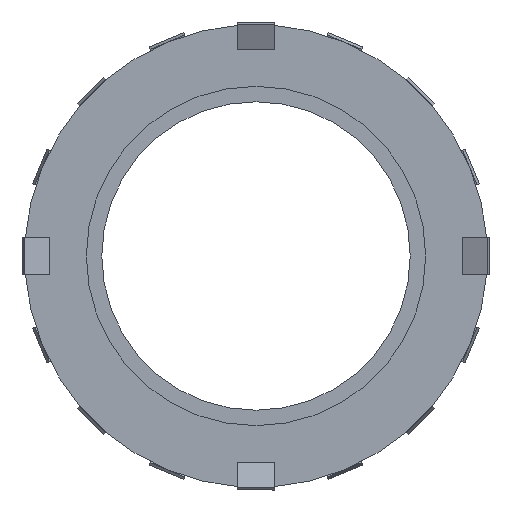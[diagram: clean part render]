
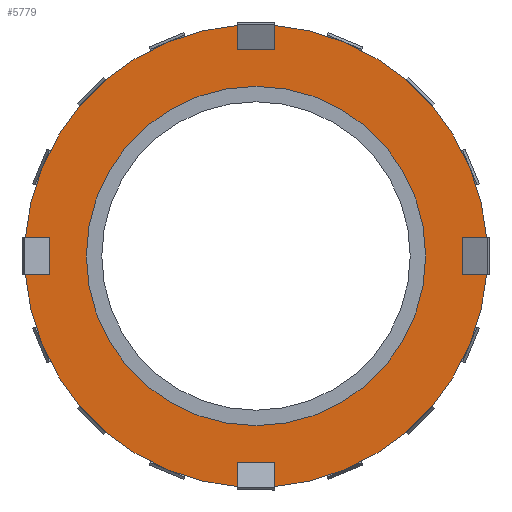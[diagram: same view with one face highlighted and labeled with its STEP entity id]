
A CAD part, left-side view. The second image highlights one B-rep face of the part: STEP entity #5779.
In plain terms, the highlighted planar face has unit normal (-1, 0, 0).
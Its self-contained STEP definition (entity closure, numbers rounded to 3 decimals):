
#1266 = EDGE_CURVE ( 'NONE', #1337, #1342, #3048, .T. ) ;
#1337 = VERTEX_POINT ( 'NONE', #3174 ) ;
#1342 = VERTEX_POINT ( 'NONE', #3173 ) ;
#1391 = VERTEX_POINT ( 'NONE', #3278 ) ;
#1400 = EDGE_CURVE ( 'NONE', #1391, #1423, #3260, .T. ) ;
#1423 = VERTEX_POINT ( 'NONE', #3315 ) ;
#3043 = DIRECTION ( 'NONE',  ( 0., 0., 1. ) ) ;
#3044 = DIRECTION ( 'NONE',  ( -1., 0., 0. ) ) ;
#3045 = CARTESIAN_POINT ( 'NONE',  ( 4., 0., 0. ) ) ;
#3047 = AXIS2_PLACEMENT_3D ( 'NONE', #3045, #3044, #3043 ) ;
#3048 = CIRCLE ( 'NONE', #3047, 27.5 ) ;
#3173 = CARTESIAN_POINT ( 'NONE',  ( 4., 0., 27.5 ) ) ;
#3174 = CARTESIAN_POINT ( 'NONE',  ( 4., 0., -27.5 ) ) ;
#3256 = DIRECTION ( 'NONE',  ( 0., 0., 1. ) ) ;
#3257 = DIRECTION ( 'NONE',  ( -1., 0., 0. ) ) ;
#3258 = CARTESIAN_POINT ( 'NONE',  ( 4., 0., 0. ) ) ;
#3259 = AXIS2_PLACEMENT_3D ( 'NONE', #3258, #3257, #3256 ) ;
#3260 = CIRCLE ( 'NONE', #3259, 37.5 ) ;
#3278 = CARTESIAN_POINT ( 'NONE',  ( 4., -3., -37.38 ) ) ;
#3315 = CARTESIAN_POINT ( 'NONE',  ( 4., -37.38, -3. ) ) ;
#3534 = CARTESIAN_POINT ( 'NONE',  ( 4., 0., 0. ) ) ;
#4055 = DIRECTION ( 'NONE',  ( -1., 0., 0. ) ) ;
#4310 = CARTESIAN_POINT ( 'NONE',  ( 4., -3., 37.38 ) ) ;
#4326 = AXIS2_PLACEMENT_3D ( 'NONE', #3534, #4055, #5180 ) ;
#4328 = CIRCLE ( 'NONE', #4326, 37.5 ) ;
#4391 = CARTESIAN_POINT ( 'NONE',  ( 4., -37.38, 3. ) ) ;
#4476 = DIRECTION ( 'NONE',  ( 0., 0., -1. ) ) ;
#4477 = VECTOR ( 'NONE', #4476, 1000. ) ;
#4478 = CARTESIAN_POINT ( 'NONE',  ( 4., 3., -37.38 ) ) ;
#4479 = LINE ( 'NONE', #4478, #4477 ) ;
#4935 = ORIENTED_EDGE ( 'NONE', *, *, #6254, .T. ) ;
#4962 = VERTEX_POINT ( 'NONE', #4310 ) ;
#4991 = EDGE_CURVE ( 'NONE', #4993, #4962, #4328, .T. ) ;
#4993 = VERTEX_POINT ( 'NONE', #4391 ) ;
#5047 = EDGE_CURVE ( 'NONE', #6593, #6199, #4479, .T. ) ;
#5048 = ORIENTED_EDGE ( 'NONE', *, *, #5047, .F. ) ;
#5180 = DIRECTION ( 'NONE',  ( 0., 0., 1. ) ) ;
#5536 = VERTEX_POINT ( 'NONE', #6360 ) ;
#5541 = EDGE_CURVE ( 'NONE', #5542, #5536, #6412, .T. ) ;
#5542 = VERTEX_POINT ( 'NONE', #6407 ) ;
#5567 = EDGE_CURVE ( 'NONE', #1342, #1337, #6478, .T. ) ;
#5602 = VERTEX_POINT ( 'NONE', #6480 ) ;
#5607 = EDGE_CURVE ( 'NONE', #5602, #6594, #6530, .T. ) ;
#5665 = ORIENTED_EDGE ( 'NONE', *, *, #5672, .F. ) ;
#5672 = EDGE_CURVE ( 'NONE', #5829, #5602, #6644, .T. ) ;
#5771 = EDGE_LOOP ( 'NONE', ( #5775, #5772 ) ) ;
#5772 = ORIENTED_EDGE ( 'NONE', *, *, #1266, .F. ) ;
#5773 = EDGE_LOOP ( 'NONE', ( #5776, #6596, #6580, #6579, #6323, #6317, #6318, #7060, #7059, #6976, #6604, #6605, #6595, #5665, #4935, #5048 ) ) ;
#5775 = ORIENTED_EDGE ( 'NONE', *, *, #5567, .F. ) ;
#5776 = ORIENTED_EDGE ( 'NONE', *, *, #5778, .F. ) ;
#5778 = EDGE_CURVE ( 'NONE', #6592, #6593, #6826, .T. ) ;
#5779 = ADVANCED_FACE ( 'NONE', ( #6822, #6821 ), #6820, .F. ) ;
#5829 = VERTEX_POINT ( 'NONE', #6859 ) ;
#6199 = VERTEX_POINT ( 'NONE', #6857 ) ;
#6254 = EDGE_CURVE ( 'NONE', #5829, #6199, #6856, .T. ) ;
#6316 = EDGE_CURVE ( 'NONE', #6319, #6575, #6847, .T. ) ;
#6317 = ORIENTED_EDGE ( 'NONE', *, *, #6320, .F. ) ;
#6318 = ORIENTED_EDGE ( 'NONE', *, *, #4991, .T. ) ;
#6319 = VERTEX_POINT ( 'NONE', #6843 ) ;
#6320 = EDGE_CURVE ( 'NONE', #4993, #6319, #6842, .T. ) ;
#6323 = ORIENTED_EDGE ( 'NONE', *, *, #6316, .F. ) ;
#6360 = CARTESIAN_POINT ( 'NONE',  ( 4., 37.38, 3. ) ) ;
#6407 = CARTESIAN_POINT ( 'NONE',  ( 4., 3., 37.38 ) ) ;
#6408 = DIRECTION ( 'NONE',  ( 0., 0., 1. ) ) ;
#6409 = DIRECTION ( 'NONE',  ( -1., 0., 0. ) ) ;
#6410 = CARTESIAN_POINT ( 'NONE',  ( 4., 0., 0. ) ) ;
#6411 = AXIS2_PLACEMENT_3D ( 'NONE', #6410, #6409, #6408 ) ;
#6412 = CIRCLE ( 'NONE', #6411, 37.5 ) ;
#6472 = DIRECTION ( 'NONE',  ( 0., 0., 1. ) ) ;
#6473 = DIRECTION ( 'NONE',  ( -1., 0., 0. ) ) ;
#6474 = CARTESIAN_POINT ( 'NONE',  ( 4., 0., 0. ) ) ;
#6475 = AXIS2_PLACEMENT_3D ( 'NONE', #6474, #6473, #6472 ) ;
#6478 = CIRCLE ( 'NONE', #6475, 27.5 ) ;
#6480 = CARTESIAN_POINT ( 'NONE',  ( 4., 33.5, -3. ) ) ;
#6527 = DIRECTION ( 'NONE',  ( 0., 0., 1. ) ) ;
#6528 = VECTOR ( 'NONE', #6527, 1000. ) ;
#6529 = CARTESIAN_POINT ( 'NONE',  ( 4., 33.5, -3. ) ) ;
#6530 = LINE ( 'NONE', #6529, #6528 ) ;
#6575 = VERTEX_POINT ( 'NONE', #6887 ) ;
#6579 = ORIENTED_EDGE ( 'NONE', *, *, #6581, .F. ) ;
#6580 = ORIENTED_EDGE ( 'NONE', *, *, #1400, .T. ) ;
#6581 = EDGE_CURVE ( 'NONE', #6575, #1423, #6879, .T. ) ;
#6591 = EDGE_CURVE ( 'NONE', #1391, #6592, #6911, .T. ) ;
#6592 = VERTEX_POINT ( 'NONE', #6907 ) ;
#6593 = VERTEX_POINT ( 'NONE', #6906 ) ;
#6594 = VERTEX_POINT ( 'NONE', #6905 ) ;
#6595 = ORIENTED_EDGE ( 'NONE', *, *, #5607, .F. ) ;
#6596 = ORIENTED_EDGE ( 'NONE', *, *, #6591, .F. ) ;
#6600 = EDGE_CURVE ( 'NONE', #6594, #5536, #6903, .T. ) ;
#6601 = EDGE_CURVE ( 'NONE', #5542, #7051, #6899, .T. ) ;
#6604 = ORIENTED_EDGE ( 'NONE', *, *, #5541, .T. ) ;
#6605 = ORIENTED_EDGE ( 'NONE', *, *, #6600, .F. ) ;
#6641 = DIRECTION ( 'NONE',  ( 0., -1., 0. ) ) ;
#6642 = VECTOR ( 'NONE', #6641, 1000. ) ;
#6643 = CARTESIAN_POINT ( 'NONE',  ( 4., 37.38, -3. ) ) ;
#6644 = LINE ( 'NONE', #6643, #6642 ) ;
#6816 = DIRECTION ( 'NONE',  ( 0., 0., -1. ) ) ;
#6817 = DIRECTION ( 'NONE',  ( 1., 0., 0. ) ) ;
#6818 = CARTESIAN_POINT ( 'NONE',  ( 4., 37.5, 0. ) ) ;
#6819 = AXIS2_PLACEMENT_3D ( 'NONE', #6818, #6817, #6816 ) ;
#6820 = PLANE ( 'NONE',  #6819 ) ;
#6821 = FACE_OUTER_BOUND ( 'NONE', #5773, .T. ) ;
#6822 = FACE_BOUND ( 'NONE', #5771, .T. ) ;
#6823 = DIRECTION ( 'NONE',  ( 0., 1., 0. ) ) ;
#6824 = VECTOR ( 'NONE', #6823, 1000. ) ;
#6825 = CARTESIAN_POINT ( 'NONE',  ( 4., -3., -33.5 ) ) ;
#6826 = LINE ( 'NONE', #6825, #6824 ) ;
#6839 = DIRECTION ( 'NONE',  ( 0., 1., 0. ) ) ;
#6840 = VECTOR ( 'NONE', #6839, 1000. ) ;
#6841 = CARTESIAN_POINT ( 'NONE',  ( 4., -37.38, 3. ) ) ;
#6842 = LINE ( 'NONE', #6841, #6840 ) ;
#6843 = CARTESIAN_POINT ( 'NONE',  ( 4., -33.5, 3. ) ) ;
#6844 = DIRECTION ( 'NONE',  ( 0., 0., -1. ) ) ;
#6845 = VECTOR ( 'NONE', #6844, 1000. ) ;
#6846 = CARTESIAN_POINT ( 'NONE',  ( 4., -33.5, 3. ) ) ;
#6847 = LINE ( 'NONE', #6846, #6845 ) ;
#6852 = DIRECTION ( 'NONE',  ( 0., 0., 1. ) ) ;
#6853 = DIRECTION ( 'NONE',  ( -1., 0., 0. ) ) ;
#6854 = CARTESIAN_POINT ( 'NONE',  ( 4., 0., 0. ) ) ;
#6855 = AXIS2_PLACEMENT_3D ( 'NONE', #6854, #6853, #6852 ) ;
#6856 = CIRCLE ( 'NONE', #6855, 37.5 ) ;
#6857 = CARTESIAN_POINT ( 'NONE',  ( 4., 3., -37.38 ) ) ;
#6859 = CARTESIAN_POINT ( 'NONE',  ( 4., 37.38, -3. ) ) ;
#6872 = DIRECTION ( 'NONE',  ( 0., -1., 0. ) ) ;
#6873 = VECTOR ( 'NONE', #6872, 1000. ) ;
#6874 = CARTESIAN_POINT ( 'NONE',  ( 4., -37.38, -3. ) ) ;
#6879 = LINE ( 'NONE', #6874, #6873 ) ;
#6887 = CARTESIAN_POINT ( 'NONE',  ( 4., -33.5, -3. ) ) ;
#6896 = DIRECTION ( 'NONE',  ( 0., 0., -1. ) ) ;
#6897 = VECTOR ( 'NONE', #6896, 1000. ) ;
#6898 = CARTESIAN_POINT ( 'NONE',  ( 4., 3., 37.38 ) ) ;
#6899 = LINE ( 'NONE', #6898, #6897 ) ;
#6900 = DIRECTION ( 'NONE',  ( 0., 1., 0. ) ) ;
#6901 = VECTOR ( 'NONE', #6900, 1000. ) ;
#6902 = CARTESIAN_POINT ( 'NONE',  ( 4., 37.38, 3. ) ) ;
#6903 = LINE ( 'NONE', #6902, #6901 ) ;
#6905 = CARTESIAN_POINT ( 'NONE',  ( 4., 33.5, 3. ) ) ;
#6906 = CARTESIAN_POINT ( 'NONE',  ( 4., 3., -33.5 ) ) ;
#6907 = CARTESIAN_POINT ( 'NONE',  ( 4., -3., -33.5 ) ) ;
#6908 = DIRECTION ( 'NONE',  ( 0., 0., 1. ) ) ;
#6909 = VECTOR ( 'NONE', #6908, 1000. ) ;
#6910 = CARTESIAN_POINT ( 'NONE',  ( 4., -3., -37.38 ) ) ;
#6911 = LINE ( 'NONE', #6910, #6909 ) ;
#6928 = DIRECTION ( 'NONE',  ( 0., -1., 0. ) ) ;
#6929 = VECTOR ( 'NONE', #6928, 1000. ) ;
#6930 = CARTESIAN_POINT ( 'NONE',  ( 4., 3., 33.5 ) ) ;
#6931 = LINE ( 'NONE', #6930, #6929 ) ;
#6932 = DIRECTION ( 'NONE',  ( 0., 0., 1. ) ) ;
#6933 = VECTOR ( 'NONE', #6932, 1000. ) ;
#6934 = CARTESIAN_POINT ( 'NONE',  ( 4., -3., 37.38 ) ) ;
#6940 = LINE ( 'NONE', #6934, #6933 ) ;
#6941 = CARTESIAN_POINT ( 'NONE',  ( 4., -3., 33.5 ) ) ;
#6942 = CARTESIAN_POINT ( 'NONE',  ( 4., 3., 33.5 ) ) ;
#6976 = ORIENTED_EDGE ( 'NONE', *, *, #6601, .F. ) ;
#7051 = VERTEX_POINT ( 'NONE', #6942 ) ;
#7052 = VERTEX_POINT ( 'NONE', #6941 ) ;
#7055 = EDGE_CURVE ( 'NONE', #7052, #4962, #6940, .T. ) ;
#7056 = EDGE_CURVE ( 'NONE', #7051, #7052, #6931, .T. ) ;
#7059 = ORIENTED_EDGE ( 'NONE', *, *, #7056, .F. ) ;
#7060 = ORIENTED_EDGE ( 'NONE', *, *, #7055, .F. ) ;
